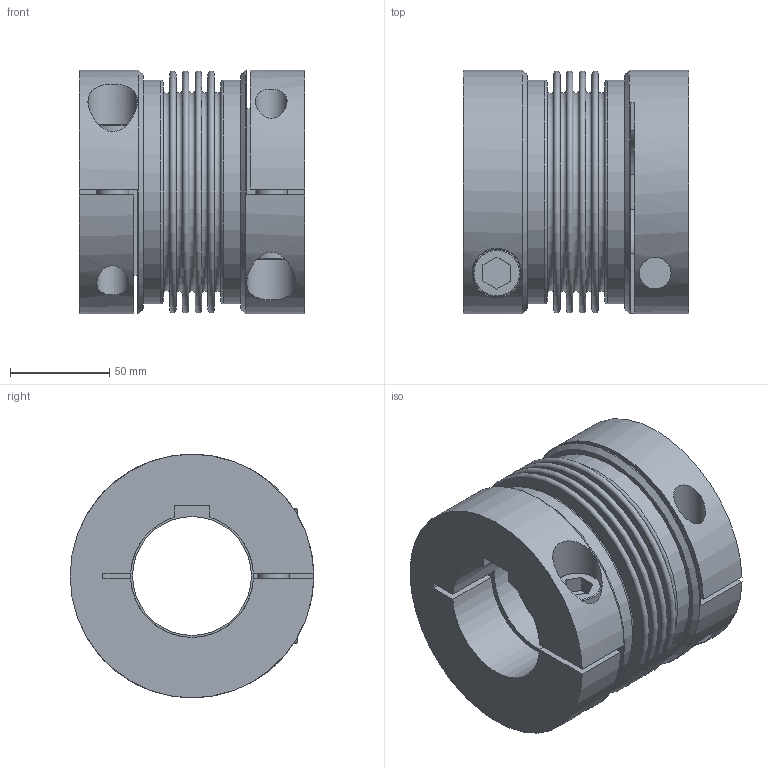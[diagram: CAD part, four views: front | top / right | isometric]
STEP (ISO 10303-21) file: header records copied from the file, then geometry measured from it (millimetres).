
FILE_DESCRIPTION(/* description */ ('STEP AP214'),/* implementation_level */ '2;1');
FILE_NAME(/* name */ 'C:\Diequa Files\DieQua Coupling\BCE\STP\BCE.500.62.#.#.stp',/* time_stamp */ '2018-11-20T09:45:50-06:00',/* author */ ('DiequaCAD'),/* organization */ (''),/* preprocessor_version */ 'ST-DEVELOPER v17.2',/* originating_system */ 'Autodesk Inventor 2019',/* authorisation */ ' ');
FILE_SCHEMA (('AUTOMOTIVE_DESIGN { 1 0 10303 214 3 1 1 }'));
Length unit declared in the file: millimetre
Products named in the file (1): BKL_500_62_PFN_62_PFN_51
Bounding box: 114 x 123 x 123 mm (x, y, z)
Volume: 854604.5 mm3; surface area: 144846.2 mm2
Topology: 1 solids, 1 shells, 88 faces, 214 edges, 148 vertices
Faces by surface type: plane 56, cylinder 17, torus 13, cone 2
Full cylindrical faces by diameter (mm): 16 x4, 24 x2, 25 x2, 60 x1, 113 x2, 123 x2
Entity records: 2855 total; most frequent: CARTESIAN_POINT 613, DIRECTION 483, ORIENTED_EDGE 428, EDGE_CURVE 214, AXIS2_PLACEMENT_3D 186, VERTEX_POINT 148, EDGE_LOOP 114, LINE 111
